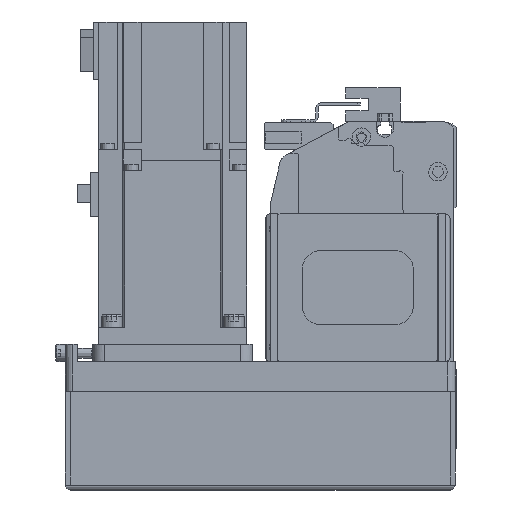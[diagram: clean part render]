
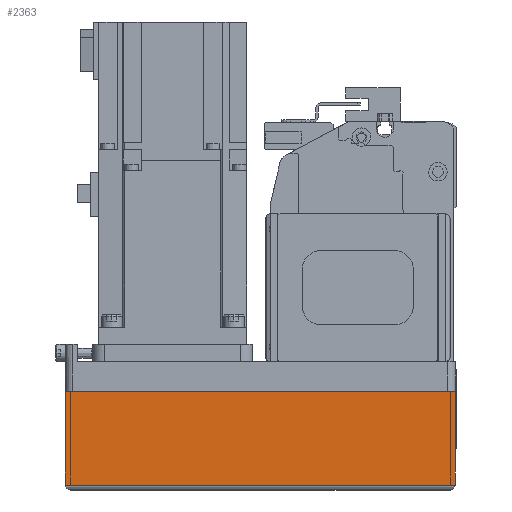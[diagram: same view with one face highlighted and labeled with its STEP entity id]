
A CAD part, left-side view. The second image highlights one B-rep face of the part: STEP entity #2363.
In plain terms, the highlighted planar face has unit normal (-1, 0, 0) as drawn and (0, -1, 0) by its records, which use the part's own axes.
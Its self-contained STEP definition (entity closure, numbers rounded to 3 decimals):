
#2363 = ADVANCED_FACE( '', ( #5388 ), #5389, .T. );
#5388 = FACE_OUTER_BOUND( '', #9129, .T. );
#5389 = PLANE( '', #9130 );
#9129 = EDGE_LOOP( '', ( #15730, #15731, #15732, #15733 ) );
#9130 = AXIS2_PLACEMENT_3D( '', #15734, #15735, #15736 );
#15730 = ORIENTED_EDGE( '', *, *, #22007, .F. );
#15731 = ORIENTED_EDGE( '', *, *, #23196, .F. );
#15732 = ORIENTED_EDGE( '', *, *, #23197, .T. );
#15733 = ORIENTED_EDGE( '', *, *, #22780, .T. );
#15734 = CARTESIAN_POINT( '', ( -158., -39., -12.1 ) );
#15735 = DIRECTION( '', ( 0., -1., 0. ) );
#15736 = DIRECTION( '', ( 0., 0., -1. ) );
#22007 = EDGE_CURVE( '', #26677, #26140, #26679, .T. );
#22780 = EDGE_CURVE( '', #27887, #26140, #27890, .T. );
#23196 = EDGE_CURVE( '', #28483, #26677, #28484, .T. );
#23197 = EDGE_CURVE( '', #28483, #27887, #28485, .T. );
#26140 = VERTEX_POINT( '', #32828 );
#26677 = VERTEX_POINT( '', #33940 );
#26679 = LINE( '', #33943, #33944 );
#27887 = VERTEX_POINT( '', #35723 );
#27890 = LINE( '', #35727, #35728 );
#28483 = VERTEX_POINT( '', #36561 );
#28484 = LINE( '', #36562, #36563 );
#28485 = LINE( '', #36564, #36565 );
#32828 = CARTESIAN_POINT( '', ( 0., -39., -50. ) );
#33940 = CARTESIAN_POINT( '', ( 0., -39., -12.1 ) );
#33943 = CARTESIAN_POINT( '', ( 0., -39., -12.1 ) );
#33944 = VECTOR( '', #40590, 1000. );
#35723 = CARTESIAN_POINT( '', ( -158., -39., -50. ) );
#35727 = CARTESIAN_POINT( '', ( -158., -39., -50. ) );
#35728 = VECTOR( '', #41558, 1000. );
#36561 = CARTESIAN_POINT( '', ( -158., -39., -12.1 ) );
#36562 = CARTESIAN_POINT( '', ( -158., -39., -12.1 ) );
#36563 = VECTOR( '', #42031, 1000. );
#36564 = CARTESIAN_POINT( '', ( -158., -39., -12.1 ) );
#36565 = VECTOR( '', #42032, 1000. );
#40590 = DIRECTION( '', ( 0., 0., -1. ) );
#41558 = DIRECTION( '', ( 1., 0., 0. ) );
#42031 = DIRECTION( '', ( 1., 0., 0. ) );
#42032 = DIRECTION( '', ( 0., 0., -1. ) );
